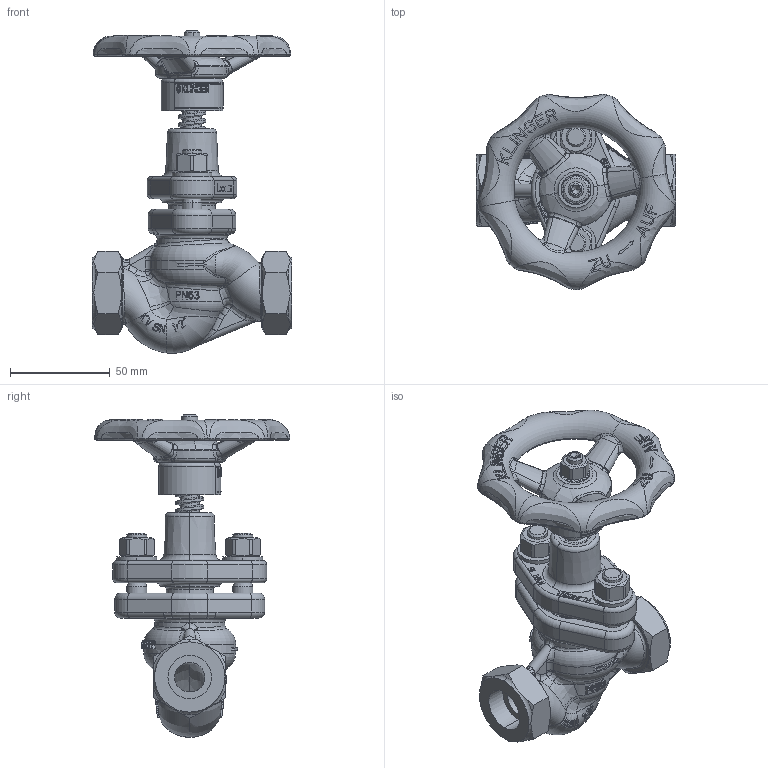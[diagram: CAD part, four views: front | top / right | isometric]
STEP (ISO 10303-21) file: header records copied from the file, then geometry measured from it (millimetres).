
FILE_DESCRIPTION((''),'2;1');
FILE_NAME('KVSN-S12S-----P063PGG_SW0001','2018-12-12T11:31:20',('jeitlers'),('KLINGER'),'CREO PARAMETRIC BY PTC INC, 2018190','CREO PARAMETRIC BY PTC INC, 2018190','');
FILE_SCHEMA(('AUTOMOTIVE_DESIGN { 1 0 10303 214 1 1 1 1 }'));
Products named in the file (1): KVSN-S12S-----P063PGG_SW0001
Bounding box: 100 x 97.69 x 161.51 mm (x, y, z)
Volume: 205360.6 mm3; surface area: 76130 mm2
Topology: 2 solids, 8 shells, 2765 faces, 7390 edges, 4739 vertices
Faces by surface type: plane 1731, bspline 499, cylinder 259, torus 166, cone 94, extrusion 12, sphere 4
Entity records: 150212 total; most frequent: CARTESIAN_POINT 87181, ORIENTED_EDGE 14772, DIRECTION 10229, EDGE_CURVE 7386, VERTEX_POINT 4739, AXIS2_PLACEMENT_3D 3456, VECTOR 3314, LINE 3302
